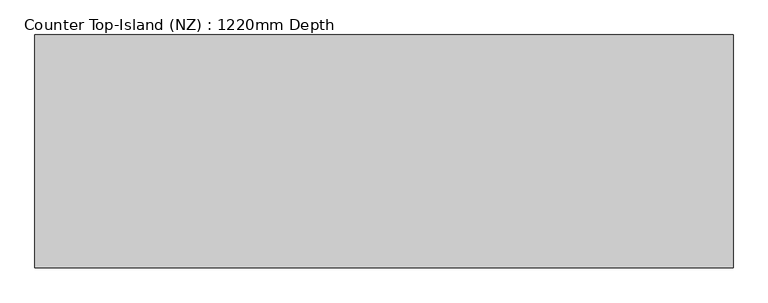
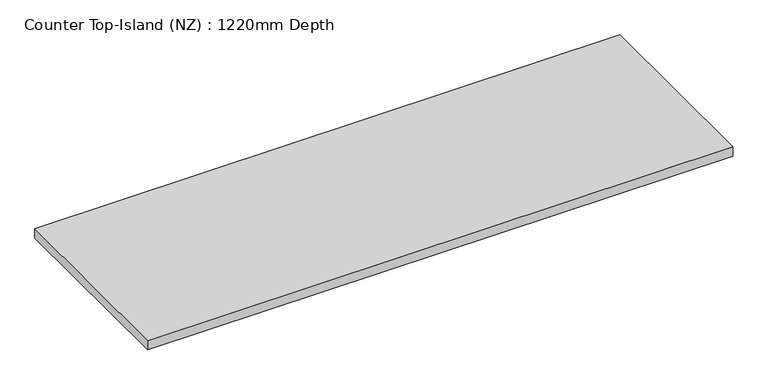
"""IFC4 building model written with IfcOpenShell, lengths in millimetres: furniture geometry, Counter Top-Island (NZ) : 1220mm Depth."""

from ifc_helpers import new_model, si_unit, frame, origin, place, context, project, spatial, polyline, outline, extrude, source, transform, mapped, element, save


def counter_top_island_nz_1220mm_depth_a1c74609(model_context):
    return source(origin(), model_context, "Body", "SweptSolid", [
        extrude(outline(polyline([(1199.5377049, 25.4), (1199.5377049, -774.6), (-1200.4622951, -774.6), (-1200.4622951, 25.4), (1199.5377049, 25.4)])), frame((0.0, 0.0, 860.0), z_axis=(0.0, 0.0, 1.0), x_axis=(1.0, 0.0, 0.0)), (0.0, 0.0, 1.0), 40.0),
    ])


if __name__ == "__main__":
    model = new_model("IFC4")
    model_context = context("Model", 3, world=origin())
    ifc_project = project(units=[si_unit("LENGTHUNIT", "METRE", prefix="MILLI")], contexts=[model_context])
    site = spatial("IfcSite", under=ifc_project)
    building = spatial("IfcBuilding", under=site)
    placement = place(None, origin())
    counter_top_island_nz_1220mm_depth_shape = counter_top_island_nz_1220mm_depth_a1c74609(model_context)
    element("IfcFurniture", 1, ObjectType="Counter Top-Island (NZ) : 1220mm Depth", at=placement, inside=building, context=model_context, shape_type="MappedRepresentation", body=[
        mapped(counter_top_island_nz_1220mm_depth_shape, transform((0.0, 0.0, 0.0), x_axis=(1.0, 0.0, 0.0), y_axis=(0.0, 1.0, 0.0), z_axis=(0.0, 0.0, 1.0))),
    ])
    save(model, "model.ifc")
